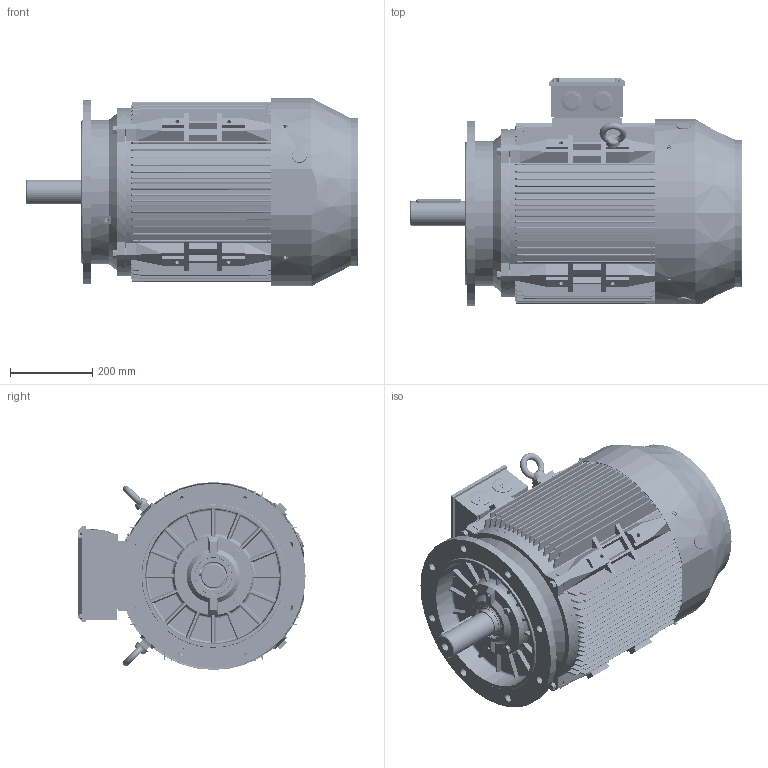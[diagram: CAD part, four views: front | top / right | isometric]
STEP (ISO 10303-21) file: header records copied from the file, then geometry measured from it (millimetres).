
FILE_DESCRIPTION (( 'STEP AP214' ), '1' );
FILE_NAME ('BCT4185.22A805.11.step', '2020-04-23T15:47:02', ( '' ), ( '' ), 'SwSTEP 2.0', 'SolidWorks 2019', '' );
FILE_SCHEMA (( 'AUTOMOTIVE_DESIGN' ));
Length unit declared in the file: millimetre
Products named in the file (1): BCT4185.22A805.11
Bounding box: 809.52 x 554 x 458.4 mm (x, y, z)
Volume: 20702930.6 mm3; surface area: 5029107.6 mm2
Topology: 51 solids, 52 shells, 7988 faces, 23096 edges, 15152 vertices
Faces by surface type: plane 3885, cylinder 3066, cone 425, torus 362, sphere 128, bspline 122
Entity records: 296748 total; most frequent: CARTESIAN_POINT 82627, ORIENTED_EDGE 45772, DIRECTION 43712, EDGE_CURVE 22886, AXIS2_PLACEMENT_3D 15312, VERTEX_POINT 15088, VECTOR 13088, LINE 13088
